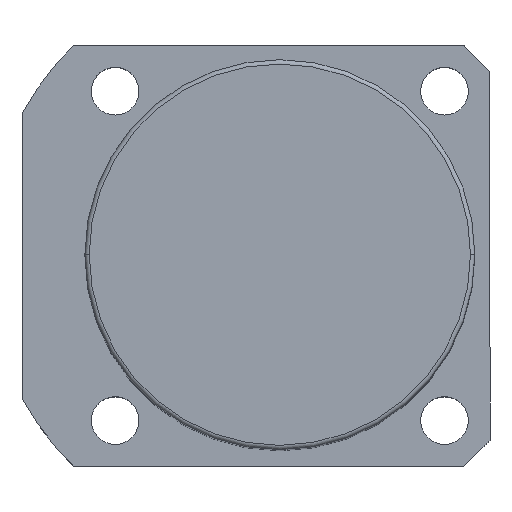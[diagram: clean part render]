
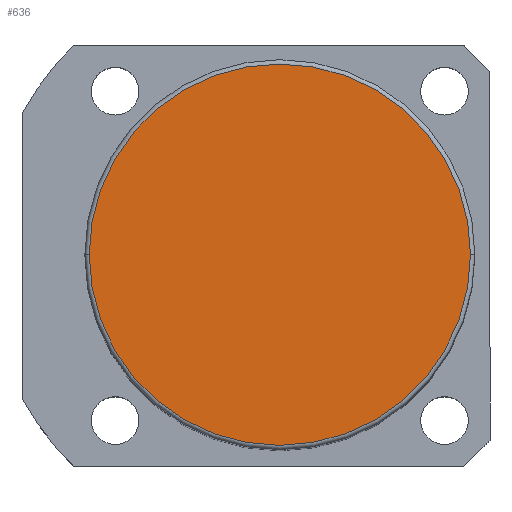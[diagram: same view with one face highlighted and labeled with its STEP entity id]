
A CAD part, top view. The second image highlights one B-rep face of the part: STEP entity #636.
In plain terms, the highlighted planar face has unit normal (0, 0, 1).
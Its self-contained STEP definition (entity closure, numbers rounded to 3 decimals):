
#25 = DIRECTION ( 'NONE',  ( 0., 0., 1. ) ) ;
#140 = CARTESIAN_POINT ( 'NONE',  ( 0., 0., 171.5 ) ) ;
#184 = CIRCLE ( 'NONE', #731, 44. ) ;
#361 = CIRCLE ( 'NONE', #383, 44. ) ;
#383 = AXIS2_PLACEMENT_3D ( 'NONE', #140, #1819, #935 ) ;
#537 = CARTESIAN_POINT ( 'NONE',  ( 44., 0., 171.5 ) ) ;
#636 = ADVANCED_FACE ( 'NONE', ( #729 ), #1822, .T. ) ;
#719 = CARTESIAN_POINT ( 'NONE',  ( 0., 0., 171.5 ) ) ;
#729 = FACE_OUTER_BOUND ( 'NONE', #1036, .T. ) ;
#731 = AXIS2_PLACEMENT_3D ( 'NONE', #1126, #25, #1254 ) ;
#803 = EDGE_CURVE ( 'NONE', #1684, #1134, #361, .T. ) ;
#935 = DIRECTION ( 'NONE',  ( 1., 0., 0. ) ) ;
#1036 = EDGE_LOOP ( 'NONE', ( #1575, #1773 ) ) ;
#1126 = CARTESIAN_POINT ( 'NONE',  ( 0., 0., 171.5 ) ) ;
#1134 = VERTEX_POINT ( 'NONE', #537 ) ;
#1254 = DIRECTION ( 'NONE',  ( 1., 0., 0. ) ) ;
#1329 = DIRECTION ( 'NONE',  ( 1., 0., 0. ) ) ;
#1575 = ORIENTED_EDGE ( 'NONE', *, *, #1594, .T. ) ;
#1594 = EDGE_CURVE ( 'NONE', #1134, #1684, #184, .T. ) ;
#1684 = VERTEX_POINT ( 'NONE', #1701 ) ;
#1701 = CARTESIAN_POINT ( 'NONE',  ( -44., 0., 171.5 ) ) ;
#1741 = AXIS2_PLACEMENT_3D ( 'NONE', #719, #1794, #1329 ) ;
#1773 = ORIENTED_EDGE ( 'NONE', *, *, #803, .T. ) ;
#1794 = DIRECTION ( 'NONE',  ( 0., 0., 1. ) ) ;
#1819 = DIRECTION ( 'NONE',  ( 0., 0., 1. ) ) ;
#1822 = PLANE ( 'NONE',  #1741 ) ;
